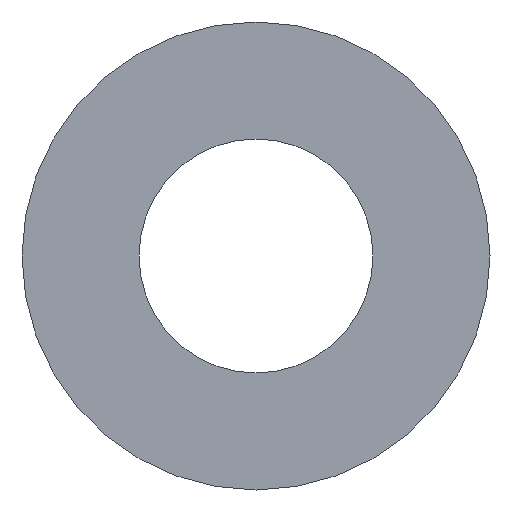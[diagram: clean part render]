
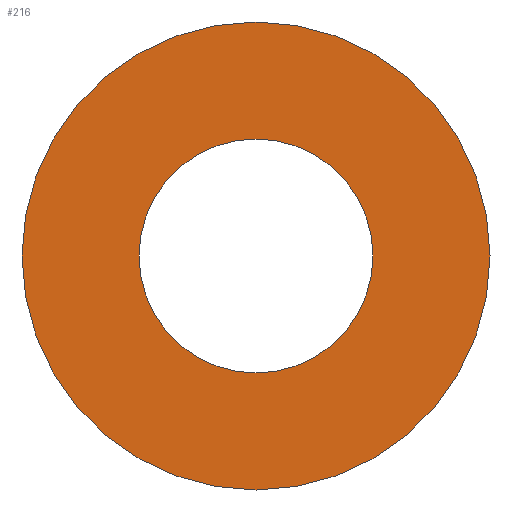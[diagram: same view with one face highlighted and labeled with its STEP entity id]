
A CAD part, front view. The second image highlights one B-rep face of the part: STEP entity #216.
In plain terms, the highlighted planar face has unit normal (0, -1, 0).
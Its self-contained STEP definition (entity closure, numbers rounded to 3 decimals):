
#9 = CARTESIAN_POINT ( 'NONE',  ( 0., 0., 0. ) ) ;
#11 = CIRCLE ( 'NONE', #190, 2.5 ) ;
#16 = CIRCLE ( 'NONE', #28, 5. ) ;
#19 = EDGE_LOOP ( 'NONE', ( #214, #63 ) ) ;
#25 = ORIENTED_EDGE ( 'NONE', *, *, #105, .F. ) ;
#28 = AXIS2_PLACEMENT_3D ( 'NONE', #185, #187, #91 ) ;
#39 = VERTEX_POINT ( 'NONE', #197 ) ;
#62 = EDGE_CURVE ( 'NONE', #181, #85, #11, .T. ) ;
#63 = ORIENTED_EDGE ( 'NONE', *, *, #67, .T. ) ;
#64 = VERTEX_POINT ( 'NONE', #147 ) ;
#66 = AXIS2_PLACEMENT_3D ( 'NONE', #95, #209, #237 ) ;
#67 = EDGE_CURVE ( 'NONE', #85, #181, #82, .T. ) ;
#69 = FACE_BOUND ( 'NONE', #19, .T. ) ;
#73 = CARTESIAN_POINT ( 'NONE',  ( 0., 0., -2.5 ) ) ;
#78 = DIRECTION ( 'NONE',  ( 0., 0., 1. ) ) ;
#82 = CIRCLE ( 'NONE', #66, 2.5 ) ;
#85 = VERTEX_POINT ( 'NONE', #119 ) ;
#91 = DIRECTION ( 'NONE',  ( 0., 0., 1. ) ) ;
#95 = CARTESIAN_POINT ( 'NONE',  ( 0., 0., 0. ) ) ;
#98 = CARTESIAN_POINT ( 'NONE',  ( 0., 0., 0. ) ) ;
#102 = ORIENTED_EDGE ( 'NONE', *, *, #202, .F. ) ;
#105 = EDGE_CURVE ( 'NONE', #64, #39, #106, .T. ) ;
#106 = CIRCLE ( 'NONE', #215, 5. ) ;
#119 = CARTESIAN_POINT ( 'NONE',  ( 0., 0., 2.5 ) ) ;
#135 = AXIS2_PLACEMENT_3D ( 'NONE', #9, #173, #167 ) ;
#139 = EDGE_LOOP ( 'NONE', ( #102, #25 ) ) ;
#147 = CARTESIAN_POINT ( 'NONE',  ( 0., 0., 5. ) ) ;
#167 = DIRECTION ( 'NONE',  ( 0., 0., 1. ) ) ;
#169 = DIRECTION ( 'NONE',  ( 0., 0., 1. ) ) ;
#173 = DIRECTION ( 'NONE',  ( 0., 1., 0. ) ) ;
#175 = CARTESIAN_POINT ( 'NONE',  ( 0., 0., 0. ) ) ;
#181 = VERTEX_POINT ( 'NONE', #73 ) ;
#185 = CARTESIAN_POINT ( 'NONE',  ( 0., 0., 0. ) ) ;
#187 = DIRECTION ( 'NONE',  ( 0., 1., 0. ) ) ;
#190 = AXIS2_PLACEMENT_3D ( 'NONE', #175, #246, #78 ) ;
#193 = DIRECTION ( 'NONE',  ( 0., 1., 0. ) ) ;
#197 = CARTESIAN_POINT ( 'NONE',  ( 0., 0., -5. ) ) ;
#202 = EDGE_CURVE ( 'NONE', #39, #64, #16, .T. ) ;
#205 = PLANE ( 'NONE',  #135 ) ;
#209 = DIRECTION ( 'NONE',  ( 0., 1., 0. ) ) ;
#214 = ORIENTED_EDGE ( 'NONE', *, *, #62, .T. ) ;
#215 = AXIS2_PLACEMENT_3D ( 'NONE', #98, #193, #169 ) ;
#216 = ADVANCED_FACE ( 'NONE', ( #228, #69 ), #205, .F. ) ;
#228 = FACE_OUTER_BOUND ( 'NONE', #139, .T. ) ;
#237 = DIRECTION ( 'NONE',  ( 0., 0., 1. ) ) ;
#246 = DIRECTION ( 'NONE',  ( 0., 1., 0. ) ) ;
